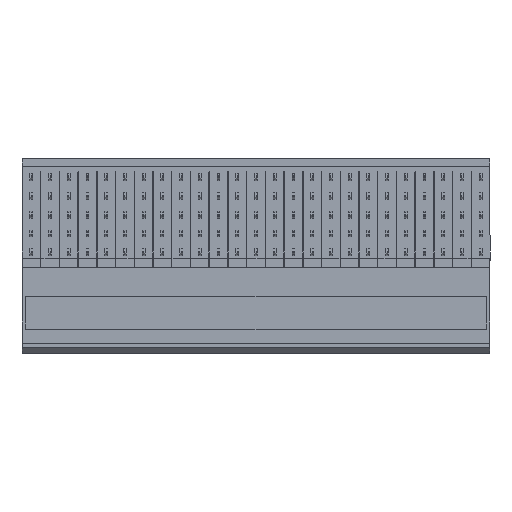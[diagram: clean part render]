
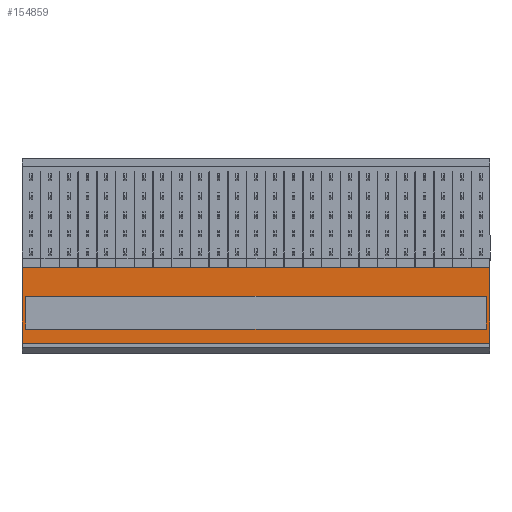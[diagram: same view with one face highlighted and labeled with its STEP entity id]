
A CAD part, top view. The second image highlights one B-rep face of the part: STEP entity #154859.
In plain terms, the highlighted planar face has unit normal (0, 0, 1).
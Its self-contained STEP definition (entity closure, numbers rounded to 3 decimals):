
#1543 = B_SPLINE_CURVE_WITH_KNOTS ( 'NONE', 3,
 ( #144111, #144110, #144117, #144118 ),
 .UNSPECIFIED., .F., .F.,
 ( 4, 4 ),
 ( 0., 1. ),
 .UNSPECIFIED. ) ;
#2638 = B_SPLINE_CURVE_WITH_KNOTS ( 'NONE', 3,
 ( #34995, #34993, #35012, #35014 ),
 .UNSPECIFIED., .F., .F.,
 ( 4, 4 ),
 ( 0., 1. ),
 .UNSPECIFIED. ) ;
#4201 = B_SPLINE_CURVE_WITH_KNOTS ( 'NONE', 3,
 ( #111946, #111944, #111955, #111957 ),
 .UNSPECIFIED., .F., .F.,
 ( 4, 4 ),
 ( 0., 1. ),
 .UNSPECIFIED. ) ;
#5268 = B_SPLINE_CURVE_WITH_KNOTS ( 'NONE', 3,
 ( #158997, #158990, #158983, #158999 ),
 .UNSPECIFIED., .F., .F.,
 ( 4, 4 ),
 ( 0., 1. ),
 .UNSPECIFIED. ) ;
#9438 = ORIENTED_EDGE ( 'NONE', *, *, #149909, .T. ) ;
#9439 = ORIENTED_EDGE ( 'NONE', *, *, #21012, .F. ) ;
#9441 = ORIENTED_EDGE ( 'NONE', *, *, #94475, .T. ) ;
#9442 = ORIENTED_EDGE ( 'NONE', *, *, #26463, .F. ) ;
#9444 = ORIENTED_EDGE ( 'NONE', *, *, #43879, .T. ) ;
#9445 = ORIENTED_EDGE ( 'NONE', *, *, #46612, .T. ) ;
#9447 = ORIENTED_EDGE ( 'NONE', *, *, #44375, .T. ) ;
#9448 = ORIENTED_EDGE ( 'NONE', *, *, #25472, .T. ) ;
#13038 = CARTESIAN_POINT ( 'NONE',  ( 49.752, 0.394, 5.45 ) ) ;
#13970 = CARTESIAN_POINT ( 'NONE',  ( 0.502, 0.394, 5.45 ) ) ;
#14546 = CARTESIAN_POINT ( 'NONE',  ( 0.502, -3.106, 5.45 ) ) ;
#14829 = CARTESIAN_POINT ( 'NONE',  ( 49.752, -3.106, 5.45 ) ) ;
#21012 = EDGE_CURVE ( 'NONE', #98542, #98416, #125151, .T. ) ;
#25472 = EDGE_CURVE ( 'NONE', #197305, #197067, #5268, .T. ) ;
#26463 = EDGE_CURVE ( 'NONE', #98393, #98665, #160193, .T. ) ;
#32282 = PLANE ( 'NONE',  #59337 ) ;
#32294 = FACE_OUTER_BOUND ( 'NONE', #43683, .T. ) ;
#32304 = FACE_BOUND ( 'NONE', #42331, .T. ) ;
#32344 = CARTESIAN_POINT ( 'NONE',  ( 48.469, 2.794, 5.45 ) ) ;
#32346 = DIRECTION ( 'NONE',  ( 0., 0., 1. ) ) ;
#32349 = DIRECTION ( 'NONE',  ( 1., 0., 0. ) ) ;
#34993 = CARTESIAN_POINT ( 'NONE',  ( 33.336, -3.106, 5.45 ) ) ;
#34995 = CARTESIAN_POINT ( 'NONE',  ( 49.752, -3.106, 5.45 ) ) ;
#35012 = CARTESIAN_POINT ( 'NONE',  ( 16.919, -3.106, 5.45 ) ) ;
#35014 = CARTESIAN_POINT ( 'NONE',  ( 0.502, -3.106, 5.45 ) ) ;
#42331 = EDGE_LOOP ( 'NONE', ( #9444, #9445, #9447, #9448 ) ) ;
#43683 = EDGE_LOOP ( 'NONE', ( #9438, #9439, #9441, #9442 ) ) ;
#43879 = EDGE_CURVE ( 'NONE', #197067, #196368, #1543, .T. ) ;
#44375 = EDGE_CURVE ( 'NONE', #197426, #197305, #2638, .T. ) ;
#46612 = EDGE_CURVE ( 'NONE', #196368, #197426, #4201, .T. ) ;
#59337 = AXIS2_PLACEMENT_3D ( 'NONE', #32344, #32346, #32349 ) ;
#63047 = VECTOR ( 'NONE', #160201, 1000. ) ;
#80722 = CARTESIAN_POINT ( 'NONE',  ( 0.127, -4.606, 5.45 ) ) ;
#80739 = CARTESIAN_POINT ( 'NONE',  ( 50.127, -4.606, 5.45 ) ) ;
#80859 = CARTESIAN_POINT ( 'NONE',  ( 50.127, 3.469, 5.45 ) ) ;
#80974 = CARTESIAN_POINT ( 'NONE',  ( 0.127, 3.469, 5.45 ) ) ;
#94475 = EDGE_CURVE ( 'NONE', #98542, #98665, #102779, .T. ) ;
#95098 = CARTESIAN_POINT ( 'NONE',  ( 50.127, 2.194, 5.45 ) ) ;
#95099 = DIRECTION ( 'NONE',  ( 0., -1., 0. ) ) ;
#98393 = VERTEX_POINT ( 'NONE', #80722 ) ;
#98416 = VERTEX_POINT ( 'NONE', #80739 ) ;
#98542 = VERTEX_POINT ( 'NONE', #80859 ) ;
#98665 = VERTEX_POINT ( 'NONE', #80974 ) ;
#102779 = LINE ( 'NONE', #102784, #191679 ) ;
#102784 = CARTESIAN_POINT ( 'NONE',  ( 48.469, 3.469, 5.45 ) ) ;
#102786 = DIRECTION ( 'NONE',  ( -1., 0., 0. ) ) ;
#111944 = CARTESIAN_POINT ( 'NONE',  ( 49.752, -0.773, 5.45 ) ) ;
#111946 = CARTESIAN_POINT ( 'NONE',  ( 49.752, 0.394, 5.45 ) ) ;
#111955 = CARTESIAN_POINT ( 'NONE',  ( 49.752, -1.939, 5.45 ) ) ;
#111957 = CARTESIAN_POINT ( 'NONE',  ( 49.752, -3.106, 5.45 ) ) ;
#125151 = LINE ( 'NONE', #95098, #187184 ) ;
#144110 = CARTESIAN_POINT ( 'NONE',  ( 16.919, 0.394, 5.45 ) ) ;
#144111 = CARTESIAN_POINT ( 'NONE',  ( 0.502, 0.394, 5.45 ) ) ;
#144117 = CARTESIAN_POINT ( 'NONE',  ( 33.336, 0.394, 5.45 ) ) ;
#144118 = CARTESIAN_POINT ( 'NONE',  ( 49.752, 0.394, 5.45 ) ) ;
#149909 = EDGE_CURVE ( 'NONE', #98393, #98416, #184673, .T. ) ;
#154859 = ADVANCED_FACE ( 'NONE', ( #32294, #32304 ), #32282, .T. ) ;
#158983 = CARTESIAN_POINT ( 'NONE',  ( 0.502, -0.773, 5.45 ) ) ;
#158990 = CARTESIAN_POINT ( 'NONE',  ( 0.502, -1.939, 5.45 ) ) ;
#158997 = CARTESIAN_POINT ( 'NONE',  ( 0.502, -3.106, 5.45 ) ) ;
#158999 = CARTESIAN_POINT ( 'NONE',  ( 0.502, 0.394, 5.45 ) ) ;
#160193 = LINE ( 'NONE', #160198, #63047 ) ;
#160198 = CARTESIAN_POINT ( 'NONE',  ( 0.127, -3.933, 5.45 ) ) ;
#160201 = DIRECTION ( 'NONE',  ( 0., 1., 0. ) ) ;
#181340 = VECTOR ( 'NONE', #184679, 1000. ) ;
#184673 = LINE ( 'NONE', #184677, #181340 ) ;
#184677 = CARTESIAN_POINT ( 'NONE',  ( 48.469, -4.606, 5.45 ) ) ;
#184679 = DIRECTION ( 'NONE',  ( 1., 0., 0. ) ) ;
#187184 = VECTOR ( 'NONE', #95099, 1000. ) ;
#191679 = VECTOR ( 'NONE', #102786, 1000. ) ;
#196368 = VERTEX_POINT ( 'NONE', #13038 ) ;
#197067 = VERTEX_POINT ( 'NONE', #13970 ) ;
#197305 = VERTEX_POINT ( 'NONE', #14546 ) ;
#197426 = VERTEX_POINT ( 'NONE', #14829 ) ;
